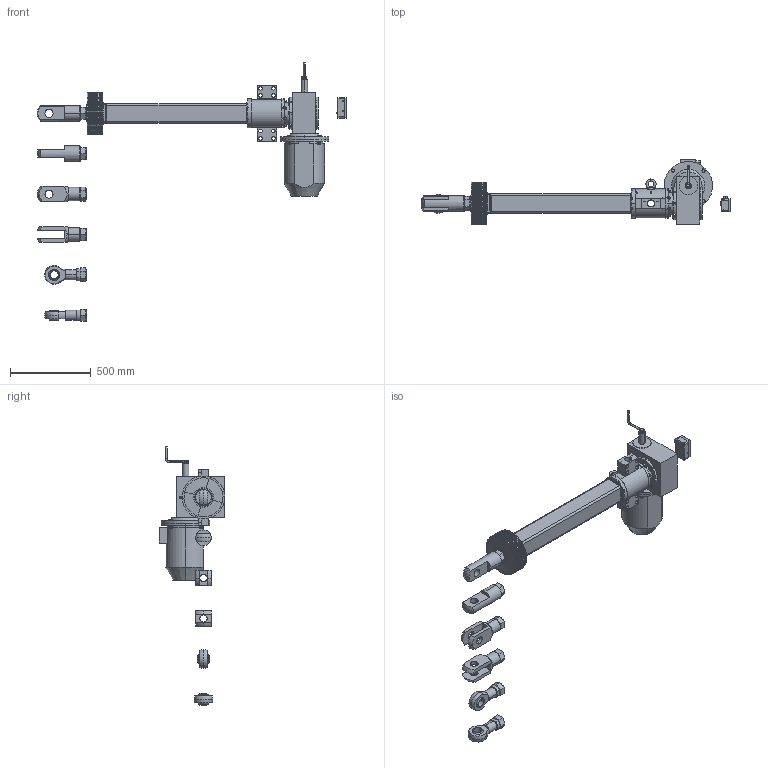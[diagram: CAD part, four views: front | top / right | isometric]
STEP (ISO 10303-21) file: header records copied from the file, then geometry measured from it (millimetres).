
FILE_DESCRIPTION (( 'STEP AP203' ), '1' );
FILE_NAME ('Ì4 10 700.STEP', '2016-12-21T09:05:47', ( '' ), ( '' ), 'SwSTEP 2.0', 'SolidWorks 2012', '' );
FILE_SCHEMA (( 'CONFIG_CONTROL_DESIGN' ));
Products named in the file (9): ﾌ4 10 700; 迕10; 苂10; 迍 10; ﾁﾑﾏ; Ãîôð Ñ4_•®¤600; ﾒ矜 10_憤､ 700; ﾑ4 10 1; ﾌ4 10 矜鈞
Assembly tree (10 placements, depth 2):
  ﾌ4 10 700
    ﾌ4 10 矜鈞
    ﾑ4 10 1
    ﾒ矜 10_憤､ 700
    Ãîôð Ñ4_•®¤600
    ﾁﾑﾏ
    迍 10
    苂10  x2
    迕10  x2
Bounding box: 1916 x 405.76 x 1601 mm (x, y, z)
Volume: 2325186.5 mm3; surface area: 6430273.8 mm2
Topology: 1 solids, 211 shells, 1906 faces, 5216 edges, 3541 vertices
Faces by surface type: plane 759, cylinder 599, cone 414, torus 62, sphere 60, bspline 12
Entity records: 62601 total; most frequent: CARTESIAN_POINT 15144, DIRECTION 10383, ORIENTED_EDGE 8387, EDGE_CURVE 4956, AXIS2_PLACEMENT_3D 4163, VERTEX_POINT 3384, CIRCLE 2328, EDGE_LOOP 2180
